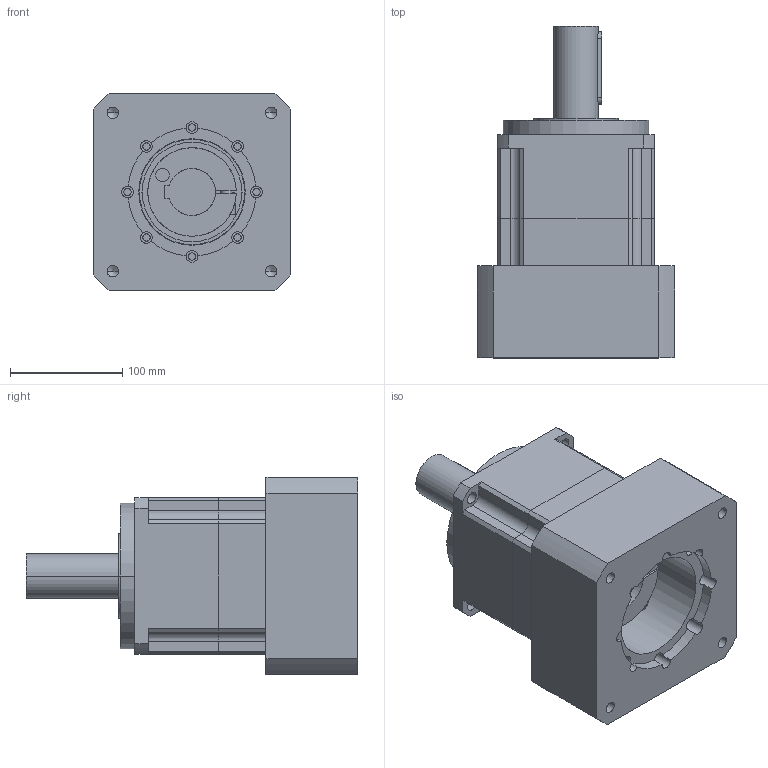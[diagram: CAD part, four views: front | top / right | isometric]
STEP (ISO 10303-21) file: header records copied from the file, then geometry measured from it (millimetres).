
FILE_DESCRIPTION (( 'STEP AP203' ), '1' );
FILE_NAME ('NT465-10-F-PAG140-L1-M2(配3000W伺服 输入42-114.3-200-M12).STEP', '2026-10-12T07:16:34', ( 'Windows User' ), ( 'P R C' ), 'SwSTEP 2.0', 'SolidWorks 2016', '' );
FILE_SCHEMA (( 'CONFIG_CONTROL_DESIGN' ));
Length unit declared in the file: millimetre
Products named in the file (2): NT465-F-10-PAG140-L1-M14(配3000W伺服 输入42-114.3-200-M12)-03; NT465-10-F-PAG140-L1-M2(配3000W伺服 输入42-114.3-200-M12)
Assembly tree (1 placements, depth 2):
  NT465-10-F-PAG140-L1-M2(配3000W伺服 输入42-114.3-200-M12)
    NT465-F-10-PAG140-L1-M14(配3000W伺服 输入42-114.3-200-M12)-03
Bounding box: 176 x 296 x 176 mm (x, y, z)
Volume: 4249376.7 mm3; surface area: 388128 mm2
Topology: 7 solids, 7 shells, 1084 faces, 2864 edges, 1882 vertices
Faces by surface type: plane 658, bspline 190, cylinder 162, cone 42, torus 32
Entity records: 41507 total; most frequent: CARTESIAN_POINT 15362, ORIENTED_EDGE 5692, DIRECTION 4703, EDGE_CURVE 2846, LINE 2001, VECTOR 2001, VERTEX_POINT 1882, AXIS2_PLACEMENT_3D 1351
